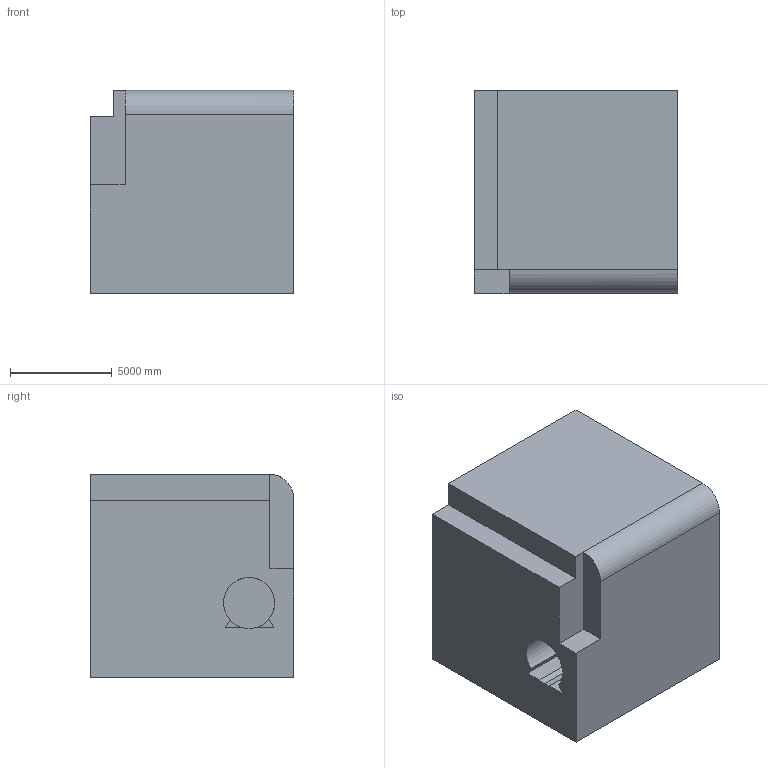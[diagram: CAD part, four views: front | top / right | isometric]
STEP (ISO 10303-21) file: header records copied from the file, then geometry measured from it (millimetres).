
FILE_DESCRIPTION (( 'STEP AP203' ), '1' );
FILE_NAME ('139.STEP', '2022-08-31T11:51:03', ( 'user' ), ( '' ), 'SwSTEP 2.0', 'SolidWorks 2021', '' );
FILE_SCHEMA (( 'CONFIG_CONTROL_DESIGN' ));
Length unit declared in the file: centimetre
Products named in the file (1): 139
Bounding box: 10000 x 10000 x 10000 mm (x, y, z)
Volume: 893173906690.2 mm3; surface area: 761151184.6 mm2
Topology: 1 solids, 1 shells, 32 faces, 81 edges, 54 vertices
Faces by surface type: plane 29, cylinder 3
Entity records: 1033 total; most frequent: CARTESIAN_POINT 168, ORIENTED_EDGE 162, DIRECTION 158, EDGE_CURVE 81, VECTOR 70, LINE 70, VERTEX_POINT 54, AXIS2_PLACEMENT_3D 44
